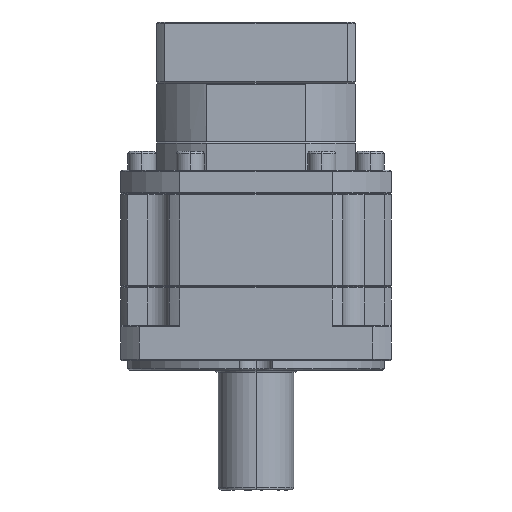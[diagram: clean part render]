
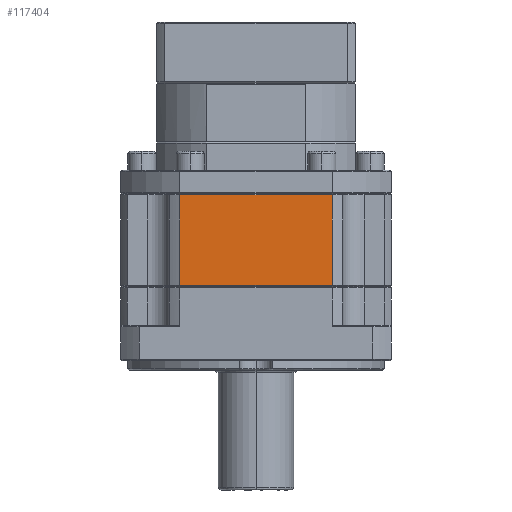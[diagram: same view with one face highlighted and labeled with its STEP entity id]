
A CAD part, front view. The second image highlights one B-rep face of the part: STEP entity #117404.
In plain terms, the highlighted planar face has unit normal (0, -1, 0).
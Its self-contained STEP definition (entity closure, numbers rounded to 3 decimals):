
#2071 = AXIS2_PLACEMENT_3D ( 'NONE', #18304, #83777, #27693 ) ;
#4292 = CARTESIAN_POINT ( 'NONE',  ( -48.517, -28.492, -69.256 ) ) ;
#9870 = LINE ( 'NONE', #27515, #23030 ) ;
#18304 = CARTESIAN_POINT ( 'NONE',  ( -48.517, -28.492, -30.256 ) ) ;
#23030 = VECTOR ( 'NONE', #46355, 1000. ) ;
#23103 = EDGE_LOOP ( 'NONE', ( #92143, #119873, #77986, #63715 ) ) ;
#24403 = VERTEX_POINT ( 'NONE', #78181 ) ;
#27515 = CARTESIAN_POINT ( 'NONE',  ( -138.417, -28.492, -30.256 ) ) ;
#27693 = DIRECTION ( 'NONE',  ( -1., 0., 0. ) ) ;
#34551 = EDGE_CURVE ( 'NONE', #96882, #48467, #37554, .T. ) ;
#36314 = CARTESIAN_POINT ( 'NONE',  ( -106.017, -28.492, -30.756 ) ) ;
#37554 = LINE ( 'NONE', #36314, #87344 ) ;
#44643 = CARTESIAN_POINT ( 'NONE',  ( -138.417, -28.492, -69.256 ) ) ;
#46355 = DIRECTION ( 'NONE',  ( 0., 0., 1. ) ) ;
#48467 = VERTEX_POINT ( 'NONE', #105479 ) ;
#56751 = EDGE_CURVE ( 'NONE', #24403, #112002, #73597, .T. ) ;
#60474 = DIRECTION ( 'NONE',  ( -1., 0., 0. ) ) ;
#63715 = ORIENTED_EDGE ( 'NONE', *, *, #88371, .F. ) ;
#70665 = VECTOR ( 'NONE', #60474, 1000. ) ;
#70761 = FACE_OUTER_BOUND ( 'NONE', #23103, .T. ) ;
#73597 = LINE ( 'NONE', #4292, #70665 ) ;
#74846 = EDGE_CURVE ( 'NONE', #48467, #24403, #110680, .T. ) ;
#77986 = ORIENTED_EDGE ( 'NONE', *, *, #34551, .F. ) ;
#78181 = CARTESIAN_POINT ( 'NONE',  ( -73.617, -28.492, -69.256 ) ) ;
#78679 = DIRECTION ( 'NONE',  ( 0., 0., -1. ) ) ;
#83777 = DIRECTION ( 'NONE',  ( 0., 1., 0. ) ) ;
#87344 = VECTOR ( 'NONE', #101823, 1000. ) ;
#88371 = EDGE_CURVE ( 'NONE', #112002, #96882, #9870, .T. ) ;
#92143 = ORIENTED_EDGE ( 'NONE', *, *, #56751, .F. ) ;
#96882 = VERTEX_POINT ( 'NONE', #100720 ) ;
#97467 = CARTESIAN_POINT ( 'NONE',  ( -73.617, -28.492, -258.298 ) ) ;
#100720 = CARTESIAN_POINT ( 'NONE',  ( -138.417, -28.492, -30.756 ) ) ;
#101823 = DIRECTION ( 'NONE',  ( 1., 0., 0. ) ) ;
#105479 = CARTESIAN_POINT ( 'NONE',  ( -73.617, -28.492, -30.756 ) ) ;
#107702 = VECTOR ( 'NONE', #78679, 1000. ) ;
#110680 = LINE ( 'NONE', #97467, #107702 ) ;
#112002 = VERTEX_POINT ( 'NONE', #44643 ) ;
#117404 = ADVANCED_FACE ( 'NONE', ( #70761 ), #120664, .F. ) ;
#119873 = ORIENTED_EDGE ( 'NONE', *, *, #74846, .F. ) ;
#120664 = PLANE ( 'NONE',  #2071 ) ;
